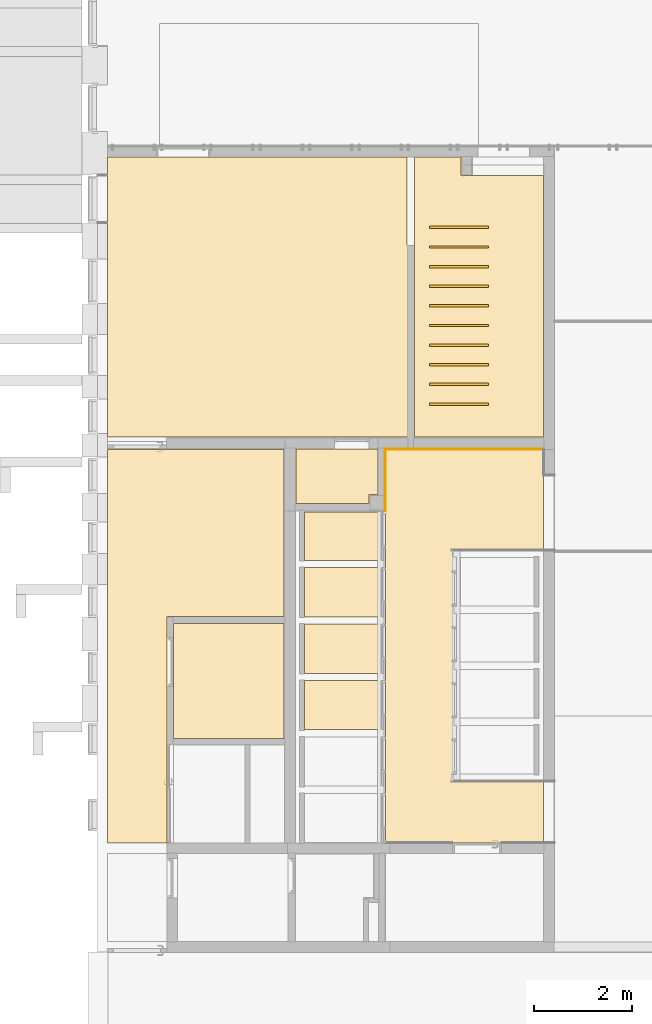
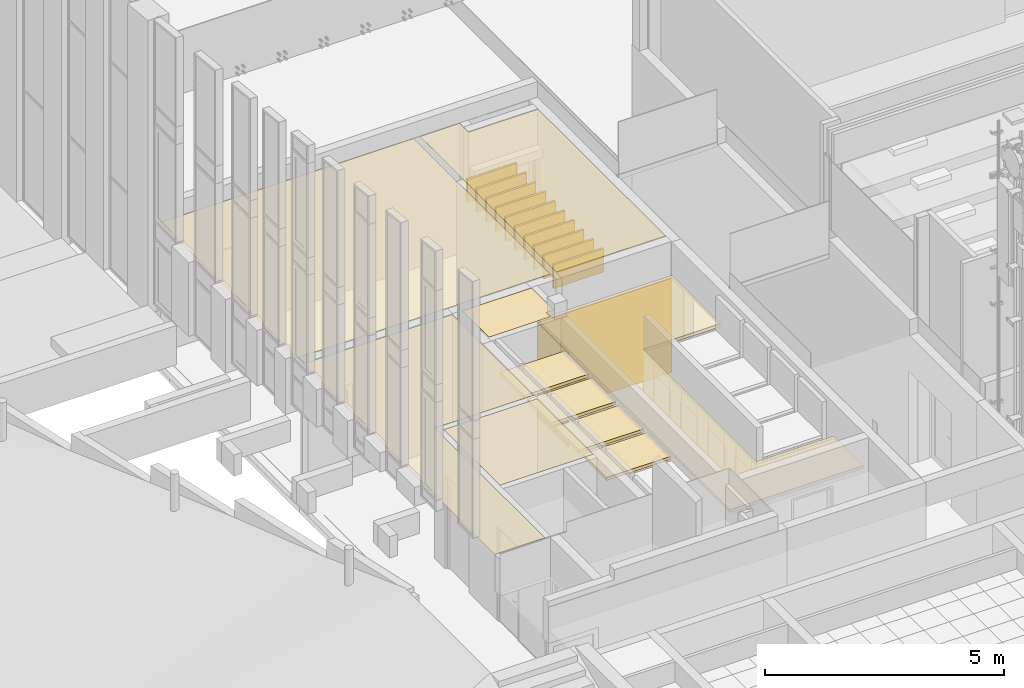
# One storey, part 171 of 246: 22 coverings.
"""IFC2X3 building model written with IfcOpenShell, lengths in millimetres."""

import ifcopenshell
import ifcopenshell.guid

model = None  # the IFC model being written
_history = None  # IfcOwnerHistory: only IFC2X3 demands one
_inside = {}  # id of a spatial element -> (the spatial element, [elements in it])
_under = {}  # id of a project, library or spatial element -> (it, [spatial elements below it])
_declared = {}  # id of a project -> (the project, [libraries it declares])
_typed = {}  # id of a type object -> (the type object, [elements of that type])
_made_of = {}  # id of a material, layer set ... -> (it, [elements and type objects made of it])


def new_model(schema):
    """Start an empty IFC model of exactly this schema.

    Asked for "IFC4X3", IfcOpenShell would pick the latest addendum, in which some entities
    have other attributes; the version numbers below select the first issue.
    IFC2X3 requires an IfcOwnerHistory on every rooted entity: one is made here for all.
    """
    global model, _history
    if schema == "IFC4X3":
        model = ifcopenshell.file(schema_version=(4, 3, 0, 0))
    else:
        model = ifcopenshell.file(schema=schema)
    _inside.clear()
    _under.clear()
    _declared.clear()
    _typed.clear()
    _made_of.clear()
    _history = None
    if model.schema == "IFC2X3":
        org = make("IfcOrganization", Name="unknown")
        user = make(
            "IfcPersonAndOrganization",
            ThePerson=make("IfcPerson", FamilyName="unknown"),
            TheOrganization=org,
        )
        app = make(
            "IfcApplication",
            ApplicationDeveloper=org,
            Version="unknown",
            ApplicationFullName="unknown",
            ApplicationIdentifier="unknown",
        )
        _history = make(
            "IfcOwnerHistory",
            OwningUser=user,
            OwningApplication=app,
            ChangeAction="ADDED",
            CreationDate=0,
        )
    return model


def make(cls, **values):
    """One entity of the class cls with the attributes given. An attribute that is None is left unset."""
    return model.create_entity(
        cls, **{name: value for name, value in values.items() if value is not None}
    )


def entity(cls, *values):
    """Any entity or typed value of the class cls, its attributes in the order of the schema. None: left unset."""
    e = model.create_entity(cls)
    for i, value in enumerate(values):
        if value is not None:
            e[i] = value
    return e


def rooted(cls, **values):
    """An entity with a GlobalId (a new one), such as an element, a storey or a relation."""
    return make(cls, GlobalId=ifcopenshell.guid.new(), OwnerHistory=_history, **values)


def si_unit(unit_type, name, prefix=None):
    """IfcSIUnit, for example si_unit("LENGTHUNIT", "METRE", prefix="MILLI")."""
    return make("IfcSIUnit", UnitType=unit_type, Prefix=prefix, Name=name)


def converted_unit(unit_type, name, factor, base, dimensions=None, offset=None):
    """IfcConversionBasedUnit, such as the inch: factor (a typed value) times the base unit."""
    return make(
        "IfcConversionBasedUnit"
        if offset is None
        else "IfcConversionBasedUnitWithOffset",
        ConversionOffset=offset,
        Dimensions=None
        if dimensions is None
        else entity("IfcDimensionalExponents", *dimensions),
        UnitType=unit_type,
        Name=name,
        ConversionFactor=make(
            "IfcMeasureWithUnit", ValueComponent=factor, UnitComponent=base
        ),
    )


def derived_unit(unit_type, elements):
    """IfcDerivedUnit: a product of units, each with its exponent."""
    return make(
        "IfcDerivedUnit",
        Elements=[
            make("IfcDerivedUnitElement", Unit=unit, Exponent=power)
            for unit, power in elements
        ],
        UnitType=unit_type,
    )


def money_unit(currency):
    """IfcMonetaryUnit."""
    return make("IfcMonetaryUnit", Currency=currency)


def assignment(units):
    """IfcUnitAssignment: the units of a project."""
    return None if units is None else make("IfcUnitAssignment", Units=units)


def point(xyz):
    """IfcCartesianPoint."""
    return None if xyz is None else make("IfcCartesianPoint", Coordinates=xyz)


def direction(xyz):
    """IfcDirection."""
    return None if xyz is None else make("IfcDirection", DirectionRatios=xyz)


def frame(location, z_axis=None, x_axis=None):
    """IfcAxis2Placement3D, a coordinate frame: its origin and axes. An axis left out is left unset."""
    return make(
        "IfcAxis2Placement3D",
        Location=point(location),
        Axis=direction(z_axis),
        RefDirection=direction(x_axis),
    )


def origin_with_axes():
    """The frame at (0, 0, 0) with the z axis (0, 0, 1) and the x axis (1, 0, 0) written out."""
    return frame((0.0, 0.0, 0.0), z_axis=(0.0, 0.0, 1.0), x_axis=(1.0, 0.0, 0.0))


def place(relative_to, where):
    """IfcLocalPlacement: puts the frame where relative to a parent placement (None: the world)."""
    return make(
        "IfcLocalPlacement", PlacementRelTo=relative_to, RelativePlacement=where
    )


def context(
    kind, dimensions, precision=None, world=None, true_north=None, identifier=None
):
    """IfcGeometricRepresentationContext, for example the 3D "Model" context."""
    return make(
        "IfcGeometricRepresentationContext",
        ContextIdentifier=identifier,
        ContextType=kind,
        CoordinateSpaceDimension=dimensions,
        Precision=precision,
        WorldCoordinateSystem=world,
        TrueNorth=true_north,
    )


def subcontext(parent, identifier, kind, view, scale=None):
    """IfcGeometricRepresentationSubContext, for example "Body" below "Model"."""
    return make(
        "IfcGeometricRepresentationSubContext",
        ContextIdentifier=identifier,
        ContextType=kind,
        ParentContext=parent,
        TargetScale=scale,
        TargetView=view,
    )


def project(units=None, contexts=None):
    """IfcProject with its units and contexts."""
    return rooted(
        "IfcProject",
        Name="project",
        RepresentationContexts=contexts,
        UnitsInContext=assignment(units),
    )


def spatial(cls, under=None, at=None, **own):
    """A site, building, storey or space (cls), placed at a placement, below another one or the project."""
    s = rooted(cls, ObjectPlacement=at, **own)
    if under is not None:
        _under.setdefault(under.id(), (under, []))[1].append(s)
    return s


def faces_of(points, faces, orient=None, outer=None):
    """IfcFace entities. A face is a list of loops; a loop is a list of indices into points, from 0.

    orient and outer hold one flag for each loop. By default every Orientation is true, the
    first loop of a face is its IfcFaceOuterBound and the others are IfcFaceBound.
    """
    made = []
    for i, loops in enumerate(faces):
        bounds = []
        for j, loop in enumerate(loops):
            is_outer = j == 0 if outer is None else outer[i][j]
            bounds.append(
                make(
                    "IfcFaceOuterBound" if is_outer else "IfcFaceBound",
                    Bound=make("IfcPolyLoop", Polygon=[points[k] for k in loop]),
                    Orientation=True if orient is None else orient[i][j],
                )
            )
        made.append(make("IfcFace", Bounds=bounds))
    return made


def faceted_brep(points, faces, orient=None, outer=None, voids=None):
    """IfcFacetedBrep: a solid bounded by flat faces; with voids (closed shells), ...WithVoids."""
    shared = [point(p) for p in points]
    hull = make("IfcClosedShell", CfsFaces=faces_of(shared, faces, orient, outer))
    if voids is None:
        return make("IfcFacetedBrep", Outer=hull)
    return make(
        "IfcFacetedBrepWithVoids",
        Outer=hull,
        Voids=[
            make(cls, CfsFaces=faces_of(shared, fs, o, b)) for cls, fs, o, b in voids
        ],
    )


def shape(context_of_items, identifier, shape_type, items):
    """IfcShapeRepresentation: the items that make up one representation, for example the "Body"."""
    return make(
        "IfcShapeRepresentation",
        ContextOfItems=context_of_items,
        RepresentationIdentifier=identifier,
        RepresentationType=shape_type,
        Items=items,
    )


def material(Name=None, Category=None):
    """IfcMaterial."""
    return make("IfcMaterial", Name=Name, Category=Category)


def material_list(materials):
    """IfcMaterialList."""
    return make("IfcMaterialList", Materials=materials)


def made_of(thing, what):
    """Note that an element or type object is made of a material, layer set ...; save() writes the relation."""
    if what is not None:
        _made_of.setdefault(what.id(), (what, []))[1].append(thing)
    return thing


def type_object(cls, material=None, **own):
    """A type object (cls), such as IfcWallType, which elements share."""
    return made_of(rooted(cls, **own), material)


def element(
    cls,
    number,
    at=None,
    inside=None,
    cuts=None,
    type_object=None,
    material=None,
    context=None,
    identifier="Body",
    shape_type=None,
    held_by="IfcProductDefinitionShape",
    body=None,
    shapes=None,
    **own,
):
    """One element of the class cls, such as IfcWall. Its Tag is "e" and its number.

    at: its placement. inside: the storey or other place that contains it. cuts: it is an
    opening in that element (IfcRelVoidsElement). A single representation is given by context,
    identifier, shape_type and body (its items); several are given by shapes. held_by: the class
    of the entity that holds the representations. save() writes the other relations.
    """
    e = rooted(cls, Tag="e%d" % number, ObjectPlacement=at, **own)
    if body is not None:
        shapes = [shape(context, identifier, shape_type, body)]
    if shapes is not None:
        e.Representation = make(held_by, Representations=shapes)
    if inside is not None:
        _inside.setdefault(inside.id(), (inside, []))[1].append(e)
    if cuts is not None:
        rooted(
            "IfcRelVoidsElement", RelatingBuildingElement=cuts, RelatedOpeningElement=e
        )
    if type_object is not None:
        _typed.setdefault(type_object.id(), (type_object, []))[1].append(e)
    return made_of(e, material)


def aggregate(whole, parts):
    """IfcRelAggregates: a whole, such as a stair, and the parts it consists of."""
    return rooted("IfcRelAggregates", RelatingObject=whole, RelatedObjects=parts)


def save(model, path):
    """Write the relations noted so far, then the file.

    IfcRelAggregates (storeys below a building ...), IfcRelContainedInSpatialStructure (elements
    in a storey), IfcRelDefinesByType, IfcRelAssociatesMaterial and IfcRelDeclares: one each for
    every whole, place, type object, material and project.
    """
    for whole, parts in _under.values():
        aggregate(whole, parts)
    for where, things in _inside.values():
        rooted(
            "IfcRelContainedInSpatialStructure",
            RelatedElements=things,
            RelatingStructure=where,
        )
    for kind, things in _typed.values():
        rooted("IfcRelDefinesByType", RelatedObjects=things, RelatingType=kind)
    for what, things in _made_of.values():
        rooted("IfcRelAssociatesMaterial", RelatedObjects=things, RelatingMaterial=what)
    for by, libraries in _declared.values():
        rooted("IfcRelDeclares", RelatingContext=by, RelatedDefinitions=libraries)
    model.write(path)


model = new_model("IFC2X3")

# Units and contexts
model_context = context("Model", 3, precision=0.01, world=origin_with_axes(), true_north=direction((0.0, 1.0)))
body_context = subcontext(model_context, "Body", "Model", "MODEL_VIEW")
ifc_project = project(units=[si_unit("LENGTHUNIT", "METRE", prefix="MILLI"), si_unit("AREAUNIT", "SQUARE_METRE"), si_unit("VOLUMEUNIT", "CUBIC_METRE"), converted_unit("PLANEANGLEUNIT", "DEGREE", entity("IfcPlaneAngleMeasure", 0.0174532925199), si_unit("PLANEANGLEUNIT", "RADIAN"), dimensions=[0, 0, 0, 0, 0, 0, 0]), si_unit("SOLIDANGLEUNIT", "STERADIAN"), money_unit("EUR"), converted_unit("TIMEUNIT", "Year", entity("IfcTimeMeasure", 31556926.0), si_unit("TIMEUNIT", "SECOND"), dimensions=[0, 0, 1, 0, 0, 0, 0]), si_unit("MASSUNIT", "GRAM", prefix="KILO"), si_unit("THERMODYNAMICTEMPERATUREUNIT", "DEGREE_CELSIUS"), si_unit("LUMINOUSINTENSITYUNIT", "LUMEN"), si_unit("ENERGYUNIT", "JOULE", prefix="MEGA"), derived_unit("THERMALCONDUCTANCEUNIT", [(si_unit("POWERUNIT", "WATT"), 1), (si_unit("LENGTHUNIT", "METRE"), -1), (si_unit("THERMODYNAMICTEMPERATUREUNIT", "KELVIN"), -1)]), derived_unit("SPECIFICHEATCAPACITYUNIT", [(si_unit("ENERGYUNIT", "JOULE"), 1), (si_unit("MASSUNIT", "GRAM", prefix="KILO"), -1), (si_unit("THERMODYNAMICTEMPERATUREUNIT", "KELVIN"), -1)]), derived_unit("MASSDENSITYUNIT", [(si_unit("MASSUNIT", "GRAM", prefix="KILO"), 1), (si_unit("VOLUMEUNIT", "CUBIC_METRE"), -1)])], contexts=[model_context])

# Site, building, storey
site_placement = place(None, origin_with_axes())
site = spatial("IfcSite", under=ifc_project, at=site_placement, Name="L.Koidula tn 11b", CompositionType="ELEMENT")
building_placement = place(site_placement, origin_with_axes())
building = spatial("IfcBuilding", under=site, at=building_placement, Name="Rakvere Riigigümnaasium", CompositionType="ELEMENT")
storey_placement = place(building_placement, origin_with_axes())
storey = spatial("IfcBuildingStorey", under=building, at=storey_placement, Name="1.korrus 0,00", CompositionType="ELEMENT", Elevation=0.0)

# Coverings
ifc_material_1 = material(Name="mineraalvill+karkass")
ifc_material_2 = material(Name="SKR-02_Kipsplaat")
ifc_material_list = material_list([ifc_material_1, ifc_material_2])
covering_type_1 = type_object("IfcCoveringType", Name="SA-LV-kips 79", PredefinedType="CEILING")
covering_1_placement = place(storey_placement, frame((41170.0073165, 17320.4555123, 2400.0), z_axis=(0.0, 0.0, 1.0), x_axis=(1.0, 0.0, 0.0)))
element("IfcCovering", 1, at=covering_1_placement, inside=storey, type_object=covering_type_1, material=ifc_material_list, Name="L-01", PredefinedType="CEILING", context=body_context, shape_type="Brep", body=[
    faceted_brep([(3219.99272426, 0.0, 12.5), (3219.99272426, 0.0, 78.5), (0.0, 0.0, 78.5), (0.0, 0.0, 12.5), (3219.99272426, 1249.99997715, 12.5), (3219.99272426, 1249.99997715, 78.5), (1359.99264272, 1249.99997715, 78.5), (1359.99264272, 5970.01585338, 78.5), (3219.99272426, 5970.01585338, 78.5), (3219.99272426, 8009.99616398, 78.5), (0.0, 8009.99616398, 78.5), (0.0, 8009.99616398, 12.5), (3219.99272426, 8009.99616398, 12.5), (3219.99272426, 5970.01585338, 12.5), (1359.99264272, 5970.01585338, 12.5), (1359.99264272, 1249.99997715, 12.5)], [[[0, 1, 2, 3]], [[4, 5, 1, 0]], [[2, 1, 5, 6, 7, 8, 9, 10]], [[3, 2, 10, 11]], [[3, 11, 12, 13, 14, 15, 4, 0]], [[15, 6, 5, 4]], [[14, 7, 6, 15]], [[13, 8, 7, 14]], [[12, 9, 8, 13]], [[11, 10, 9, 12]]]),
    faceted_brep([(0.0, 0.0, 0.0), (3219.99272426, 0.0, 0.0), (3219.99272426, 0.0, 12.5), (0.0, 0.0, 12.5), (0.0, 8009.99616398, 0.0), (3219.99272426, 8009.99616398, 0.0), (3219.99272426, 5970.01585338, 0.0), (1359.99264272, 5970.01585338, 0.0), (1359.99264272, 1249.99997715, 0.0), (3219.99272426, 1249.99997715, 0.0), (3219.99272426, 1249.99997715, 12.5), (1359.99264272, 1249.99997715, 12.5), (1359.99264272, 5970.01585338, 12.5), (3219.99272426, 5970.01585338, 12.5), (3219.99272426, 8009.99616398, 12.5), (0.0, 8009.99616398, 12.5)], [[[0, 1, 2, 3]], [[0, 4, 5, 6, 7, 8, 9, 1]], [[1, 9, 10, 2]], [[3, 2, 10, 11, 12, 13, 14, 15]], [[4, 0, 3, 15]], [[5, 4, 15, 14]], [[6, 5, 14, 13]], [[7, 6, 13, 12]], [[8, 7, 12, 11]], [[9, 8, 11, 10]]]),
])
covering_2_placement = place(storey_placement, frame((39520.0000359, 24060.4555534, 2400.0), z_axis=(0.0, 0.0, 1.0), x_axis=(1.0, 0.0, 0.0)))
element("IfcCovering", 2, at=covering_2_placement, inside=storey, type_object=covering_type_1, material=ifc_material_list, Name="L-04", PredefinedType="CEILING", context=body_context, shape_type="Brep", body=[
    faceted_brep([(0.0, -985.016516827, 12.5), (0.0, -985.016516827, 78.5), (0.0, 0.0, 78.5), (0.0, 0.0, 12.5), (1557.82676395, -985.016516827, 12.5), (1557.82676395, -985.016516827, 78.5), (1557.82676395, 0.0, 78.5), (1557.82676395, 0.0, 12.5)], [[[0, 1, 2, 3]], [[4, 5, 1, 0]], [[2, 1, 5, 6]], [[3, 2, 6, 7]], [[3, 7, 4, 0]], [[7, 6, 5, 4]]]),
    faceted_brep([(0.0, 0.0, 0.0), (0.0, -985.016516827, 0.0), (0.0, -985.016516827, 12.5), (0.0, 0.0, 12.5), (1557.82676395, 0.0, 0.0), (1557.82676395, -985.016516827, 0.0), (1557.82676395, -985.016516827, 12.5), (1557.82676395, 0.0, 12.5)], [[[0, 1, 2, 3]], [[0, 4, 5, 1]], [[1, 5, 6, 2]], [[3, 2, 6, 7]], [[4, 0, 3, 7]], [[5, 4, 7, 6]]]),
])
covering_3_placement = place(storey_placement, frame((41077.8267999, 22925.4390366, 2400.0), z_axis=(0.0, 0.0, 1.0), x_axis=(1.0, 0.0, 0.0)))
element("IfcCovering", 3, at=covering_3_placement, inside=storey, type_object=covering_type_1, material=ifc_material_list, Name="L-04", PredefinedType="CEILING", context=body_context, shape_type="Brep", body=[
    faceted_brep([(-1557.82676399, 0.0, 12.5), (-1557.82676399, 0.0, 78.5), (0.0, 0.0, 78.5), (0.0, 0.0, 12.5), (-1557.82676399, -999.920164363, 12.5), (-1557.82676399, -999.920164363, 78.5), (0.0, -999.920164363, 78.5), (0.0, -999.920164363, 12.5)], [[[0, 1, 2, 3]], [[4, 5, 1, 0]], [[2, 1, 5, 6]], [[3, 2, 6, 7]], [[3, 7, 4, 0]], [[7, 6, 5, 4]]]),
    faceted_brep([(0.0, 0.0, 0.0), (-1557.82676399, 0.0, 0.0), (-1557.82676399, 0.0, 12.5), (0.0, 0.0, 12.5), (0.0, -999.920164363, 0.0), (-1557.82676399, -999.920164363, 0.0), (-1557.82676399, -999.920164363, 12.5), (0.0, -999.920164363, 12.5)], [[[0, 1, 2, 3]], [[0, 4, 5, 1]], [[1, 5, 6, 2]], [[3, 2, 6, 7]], [[4, 0, 3, 7]], [[5, 4, 7, 6]]]),
])
covering_4_placement = place(storey_placement, frame((41077.8267999, 21775.5188722, 2400.0), z_axis=(0.0, 0.0, 1.0), x_axis=(1.0, 0.0, 0.0)))
element("IfcCovering", 4, at=covering_4_placement, inside=storey, type_object=covering_type_1, material=ifc_material_list, Name="L-04", PredefinedType="CEILING", context=body_context, shape_type="Brep", body=[
    faceted_brep([(-1557.82676401, 0.0, 12.5), (-1557.82676401, 0.0, 78.5), (0.0, 0.0, 78.5), (0.0, 0.0, 12.5), (-1557.82676401, -1000.01583998, 12.5), (-1557.82676401, -1000.01583998, 78.5), (0.0, -1000.01583998, 78.5), (0.0, -1000.01583998, 12.5)], [[[0, 1, 2, 3]], [[4, 5, 1, 0]], [[2, 1, 5, 6]], [[3, 2, 6, 7]], [[3, 7, 4, 0]], [[7, 6, 5, 4]]]),
    faceted_brep([(0.0, 0.0, 0.0), (-1557.82676401, 0.0, 0.0), (-1557.82676401, 0.0, 12.5), (0.0, 0.0, 12.5), (0.0, -1000.01583998, 0.0), (-1557.82676401, -1000.01583998, 0.0), (-1557.82676401, -1000.01583998, 12.5), (0.0, -1000.01583998, 12.5)], [[[0, 1, 2, 3]], [[0, 4, 5, 1]], [[1, 5, 6, 2]], [[3, 2, 6, 7]], [[4, 0, 3, 7]], [[5, 4, 7, 6]]]),
])
covering_5_placement = place(storey_placement, frame((41077.8267999, 20625.4073566, 2400.0), z_axis=(0.0, 0.0, 1.0), x_axis=(1.0, 0.0, 0.0)))
element("IfcCovering", 5, at=covering_5_placement, inside=storey, type_object=covering_type_1, material=ifc_material_list, Name="L-04", PredefinedType="CEILING", context=body_context, shape_type="Brep", body=[
    faceted_brep([(-1557.82676403, 0.0, 12.5), (-1557.82676403, 0.0, 78.5), (0.0, 0.0, 78.5), (0.0, 0.0, 12.5), (-1557.82676403, -1000.01516931, 12.5), (-1557.82676403, -1000.01516931, 78.5), (0.0, -1000.01516931, 78.5), (0.0, -1000.01516931, 12.5)], [[[0, 1, 2, 3]], [[4, 5, 1, 0]], [[2, 1, 5, 6]], [[3, 2, 6, 7]], [[3, 7, 4, 0]], [[7, 6, 5, 4]]]),
    faceted_brep([(0.0, 0.0, 0.0), (-1557.82676403, 0.0, 0.0), (-1557.82676403, 0.0, 12.5), (0.0, 0.0, 12.5), (0.0, -1000.01516931, 0.0), (-1557.82676403, -1000.01516931, 0.0), (-1557.82676403, -1000.01516931, 12.5), (0.0, -1000.01516931, 12.5)], [[[0, 1, 2, 3]], [[0, 4, 5, 1]], [[1, 5, 6, 2]], [[3, 2, 6, 7]], [[4, 0, 3, 7]], [[5, 4, 7, 6]]]),
])
ifc_material_3 = material(Name="MDF")
covering_type_2 = type_object("IfcCoveringType", Name="MDF 20", PredefinedType="CLADDING")
covering_6_placement = place(storey_placement, frame((41150.0073165, 25350.4516763, 0.0), z_axis=(0.0, 0.0, 1.0), x_axis=(1.0, 0.0, 0.0)))
element("IfcCovering", 6, at=covering_6_placement, inside=storey, type_object=covering_type_2, material=ifc_material_3, Name="S-07", PredefinedType="CLADDING", context=body_context, shape_type="Brep", body=[
    faceted_brep([(3249.99262521, 0.0, 0.0), (3249.99262521, -20.0, 0.0), (20.0, -20.0, 0.0), (20.0, 0.0, 0.0), (3249.99262521, 0.0, 2400.0), (3249.99262521, -20.0, 2400.0), (20.0, -20.0, 2400.0), (20.0, 0.0, 2400.0)], [[[0, 1, 2, 3]], [[1, 0, 4, 5]], [[1, 5, 6, 2]], [[7, 3, 2, 6]], [[4, 0, 3, 7]], [[5, 4, 7, 6]]]),
])
covering_7_placement = place(storey_placement, frame((41150.0073165, 24055.4555472, 0.0), z_axis=(0.0, 0.0, 1.0), x_axis=(0.0, 1.0, 0.0)))
element("IfcCovering", 7, at=covering_7_placement, inside=storey, type_object=covering_type_2, material=ifc_material_3, Name="S-07", PredefinedType="CLADDING", context=body_context, shape_type="Brep", body=[
    faceted_brep([(1294.99612905, 0.0, 0.0), (1294.99612905, -20.0, 0.0), (0.0, -20.0, 0.0), (0.0, 0.0, 0.0), (1294.99612905, 0.0, 2400.0), (1294.99612905, -20.0, 2400.0), (0.0, -20.0, 2400.0), (0.0, 0.0, 2400.0)], [[[0, 1, 2, 3]], [[1, 0, 4, 5]], [[1, 5, 6, 2]], [[7, 3, 2, 6]], [[4, 0, 3, 7]], [[5, 4, 7, 6]]]),
])
ifc_material_4 = material(Name="Salto-siseviimistlus-ripplagi")
covering_type_3 = type_object("IfcCoveringType", Name="Salto-siseviimistlus-ripplagi 1", PredefinedType="CLADDING")
covering_8_placement = place(storey_placement, frame((35500.0000521, 23860.4554762, 3325.0), z_axis=(0.0, 0.0, 1.0), x_axis=(1.0, 0.0, 0.0)))
element("IfcCovering", 8, at=covering_8_placement, inside=storey, type_object=covering_type_3, material=ifc_material_4, Name="L-08", PredefinedType="CLADDING", context=body_context, shape_type="Brep", body=[
    faceted_brep([(0.0, -6539.99996389, 0.0), (0.0, -6539.99996389, -1.0), (1210.00002845, -6539.99996389, -1.0), (1210.00002845, -6539.99996389, 0.0), (0.0, 1474.99620009, 0.0), (0.0, 1474.99620009, -1.0), (3595.0071749, 1474.99620009, -1.0), (3595.0071749, -1924.9366165, -1.0), (1210.00002845, -1924.9366165, -1.0), (1210.00002845, -1924.9366165, 0.0), (3595.0071749, -1924.9366165, 0.0), (3595.0071749, 1474.99620009, 0.0)], [[[0, 1, 2, 3]], [[4, 5, 1, 0]], [[5, 6, 7, 8, 2, 1]], [[3, 2, 8, 9]], [[0, 3, 9, 10, 11, 4]], [[11, 6, 5, 4]], [[10, 7, 6, 11]], [[9, 8, 7, 10]]]),
])
covering_9_placement = place(storey_placement, frame((35500.0000521, 29960.4553283, 3325.0), z_axis=(0.0, 0.0, 1.0), x_axis=(1.0, 0.0, 0.0)))
element("IfcCovering", 9, at=covering_9_placement, inside=storey, type_object=covering_type_3, material=ifc_material_4, Name="L-08", PredefinedType="CLADDING", context=body_context, shape_type="Brep", body=[
    faceted_brep([(0.0, -4375.00365205, 0.0), (0.0, -4375.00365205, -1.0), (6110.00005611, -4375.00365205, -1.0), (6110.00005611, -4375.00365205, 0.0), (0.0, 1330.00017657, 0.0), (0.0, 1330.00017657, -1.0), (6105.0000729, 1330.00017657, -1.0), (6105.0000729, -475.003594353, -1.0), (6110.00005611, -475.003594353, -1.0), (6110.00005611, -475.003594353, 0.0), (6105.0000729, -475.003594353, 0.0), (6105.0000729, 1330.00017657, 0.0)], [[[0, 1, 2, 3]], [[4, 5, 1, 0]], [[5, 6, 7, 8, 2, 1]], [[3, 2, 8, 9]], [[0, 3, 9, 10, 11, 4]], [[11, 6, 5, 4]], [[10, 7, 6, 11]], [[9, 8, 7, 10]]]),
])
covering_10_placement = place(storey_placement, frame((36850.0000507, 21790.5188722, 3325.0), z_axis=(0.0, 0.0, 1.0), x_axis=(1.0, 0.0, 0.0)))
element("IfcCovering", 10, at=covering_10_placement, inside=storey, type_object=covering_type_3, material=ifc_material_4, Name="L-08", PredefinedType="CLADDING", context=body_context, shape_type="Brep", body=[
    faceted_brep([(0.0, 0.0, 0.0), (0.0, 0.0, -1.0), (0.0, -2340.07916497, -1.0), (0.0, -2340.07916497, 0.0), (2248.0072349, 0.0, 0.0), (2248.0072349, 0.0, -1.0), (2248.0072349, -2340.07916497, -1.0), (2248.0072349, -2340.07916497, 0.0)], [[[0, 1, 2, 3]], [[4, 5, 1, 0]], [[2, 1, 5, 6]], [[3, 2, 6, 7]], [[4, 0, 3, 7]], [[7, 6, 5, 4]]]),
])
covering_11_placement = place(storey_placement, frame((41755.0000975, 31290.4554439, 3325.0), z_axis=(0.0, 0.0, 1.0), x_axis=(1.0, 0.0, 0.0)))
element("IfcCovering", 11, at=covering_11_placement, inside=storey, type_object=covering_type_3, material=ifc_material_4, Name="L-10", PredefinedType="CLADDING", context=body_context, shape_type="Brep", body=[
    faceted_brep([(0.0, 0.0, 0.0), (0.0, 0.0, -1.0), (0.0, -5705.00376758, -1.0), (0.0, -5705.00376758, 0.0), (952.99991105, 0.0, 0.0), (952.99991105, 0.0, -1.0), (952.99991105, -371.999917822, -1.0), (2634.99990301, -371.999917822, -1.0), (2634.99990301, -5705.00376758, -1.0), (2634.99990301, -5705.00376758, 0.0), (2634.99990301, -371.999917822, 0.0), (952.99991105, -371.999917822, 0.0)], [[[0, 1, 2, 3]], [[4, 5, 1, 0]], [[1, 5, 6, 7, 8, 2]], [[3, 2, 8, 9]], [[4, 0, 3, 9, 10, 11]], [[11, 6, 5, 4]], [[10, 7, 6, 11]], [[9, 8, 7, 10]]]),
])
covering_12_placement = place(storey_placement, frame((39345.007288, 25345.4516886, 3325.0), z_axis=(0.0, 0.0, 1.0), x_axis=(1.0, 0.0, 0.0)))
element("IfcCovering", 12, at=covering_12_placement, inside=storey, type_object=covering_type_3, material=ifc_material_4, Name="L-08", PredefinedType="CLADDING", context=body_context, shape_type="Brep", body=[
    faceted_brep([(0.0, 0.0, 0.0), (0.0, 0.0, -1.0), (0.0, -1109.99614136, -1.0), (0.0, -1109.99614136, 0.0), (1670.00002852, 0.0, 0.0), (1670.00002852, 0.0, -1.0), (1670.00002852, -929.996145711, -1.0), (1489.99370053, -929.996145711, -1.0), (1489.99370053, -1109.99614136, -1.0), (1489.99370053, -1109.99614136, 0.0), (1489.99370053, -929.996145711, 0.0), (1670.00002852, -929.996145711, 0.0)], [[[0, 1, 2, 3]], [[4, 5, 1, 0]], [[2, 1, 5, 6, 7, 8]], [[3, 2, 8, 9]], [[0, 3, 9, 10, 11, 4]], [[11, 6, 5, 4]], [[10, 7, 6, 11]], [[9, 8, 7, 10]]]),
])
ifc_material_5 = material(Name="Klaasvill")
covering_type_4 = type_object("IfcCoveringType", Name="Klaasvill 50", PredefinedType="CEILING")
for number, where, z_axis, x_axis, name in (
    (13, (42060.54456, 26285.2515102, 2400.0), (0.0, 0.0, 1.0), (1.0, 0.0, 0.0), "L-10.1"),
    (14, (42060.54456, 26685.2515102, 2400.0), (0.0, 0.0, 1.0), (1.0, 0.0, 0.0), "L-10.1"),
    (15, (42060.54456, 27085.2515102, 2400.0), (0.0, 0.0, 1.0), (1.0, 0.0, 0.0), "L-10.1"),
    (16, (42060.54456, 27485.2515102, 2400.0), (0.0, 0.0, 1.0), (1.0, 0.0, 0.0), "L-10.1"),
    (17, (42060.54456, 27885.2515102, 2400.0), (0.0, 0.0, 1.0), (1.0, 0.0, 0.0), "L-10.1"),
    (18, (42060.54456, 28685.2515102, 2400.0), (0.0, 0.0, 1.0), (1.0, 0.0, 0.0), "L-10.1"),
    (19, (42060.54456, 28285.2515102, 2400.0), (0.0, 0.0, 1.0), (1.0, 0.0, 0.0), "L-10.1"),
    (20, (42060.54456, 29085.2515102, 2400.0), (0.0, 0.0, 1.0), (1.0, 0.0, 0.0), "L-10.1"),
    (21, (42060.54456, 29485.2515102, 2400.0), (0.0, 0.0, 1.0), (1.0, 0.0, 0.0), "L-10.1"),
    (22, (42060.54456, 29885.2515102, 2400.0), (0.0, 0.0, 1.0), (1.0, 0.0, 0.0), "L-10.1"),
):
    element("IfcCovering", number, at=place(storey_placement, frame(where, z_axis=z_axis, x_axis=x_axis)), inside=storey, type_object=covering_type_4, material=ifc_material_5, Name=name, PredefinedType="CEILING", context=body_context, shape_type="Brep", body=[
        faceted_brep([(0.0, -50.0, 600.0), (1200.0, -50.0, 600.0), (1200.0, 0.0, 600.0), (0.0, 0.0, 600.0), (0.0, -50.0, 0.0), (1200.0, -50.0, 0.0), (1200.0, 0.0, 0.0), (0.0, 0.0, 0.0)], [[[0, 1, 2, 3]], [[4, 5, 1, 0]], [[2, 1, 5, 6]], [[3, 2, 6, 7]], [[4, 0, 3, 7]], [[7, 6, 5, 4]]]),
    ])

save(model, "model.ifc")
